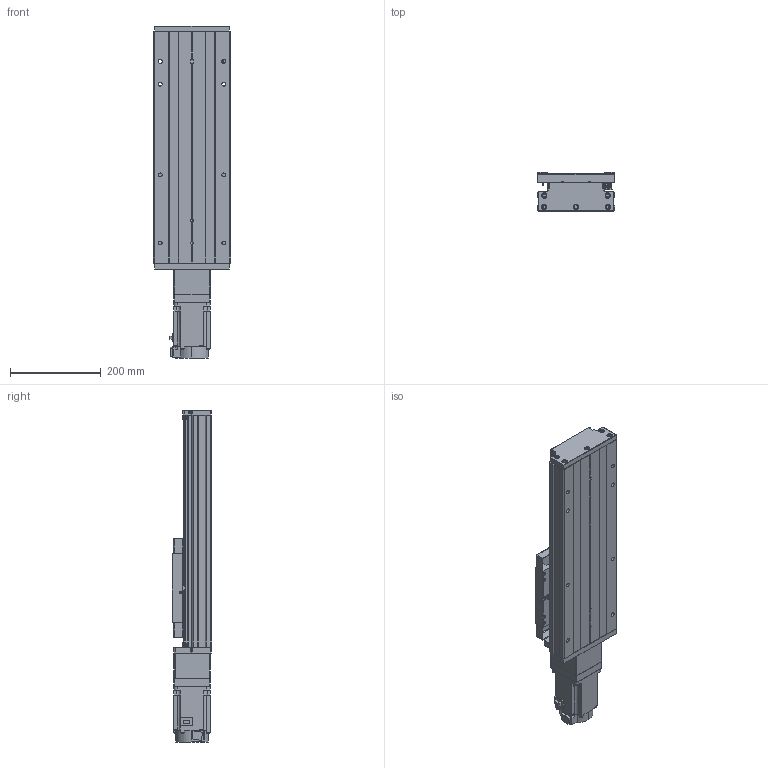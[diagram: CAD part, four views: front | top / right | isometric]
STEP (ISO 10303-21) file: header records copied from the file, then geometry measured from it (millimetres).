
FILE_DESCRIPTION (( 'STEP AP203' ), '1' );
FILE_NAME ('GTH17-250-BC-M75-C4.step', '2023-06-30T11:21:01', ( '微软用户' ), ( '微软中国' ), 'SwSTEP 2.0', 'SolidWorks 2020', '' );
FILE_SCHEMA (( 'CONFIG_CONTROL_DESIGN' ));
Length unit declared in the file: millimetre
Products named in the file (20): CTHA60-017; GBT 70.2-M3¡Á5_M3¡Á6; GTH17-250-BC-M75-C4; EE_SX911P_R; す晦芛蹟隊 M3℅5; GTH17-001_250; CTHA60-016; GBT 70.3-M3℅8; GTH17-002_GTH17-002; GBT 70.1-M3℅5; GTH17-006-2_M75; GTH17-004; GBT77-2000 M3×3; GTH17-013; GTH17-005; GBT 70.1-M6¡Á20_M6¡Á20; GTH17-027-1; GB1155-6X6; GTH17-031; HG-KN73J-S100
Assembly tree (57 placements, depth 2):
  GTH17-250-BC-M75-C4
    GTH17-001_250
    GTH17-002_GTH17-002
    GTH17-004
    GTH17-005
    GB1155-6X6  x2
    CTHA60-017  x3
    EE_SX911P_R  x3
    CTHA60-016  x2
    GBT 70.1-M3℅5  x6
    GBT77-2000 M3×3  x6
    GBT 70.1-M6¡Á20_M6¡Á20  x10
    GTH17-031
    GBT 70.2-M3¡Á5_M3¡Á6  x8
    す晦芛蹟隊 M3℅5  x6
    GBT 70.3-M3℅8  x2
    GTH17-006-2_M75
    GTH17-013
    GTH17-027-1
    HG-KN73J-S100
Bounding box: 171 x 87 x 731.2 mm (x, y, z)
Volume: 5590222.9 mm3; surface area: 795279 mm2
Topology: 60 solids, 60 shells, 2394 faces, 5725 edges, 3547 vertices
Faces by surface type: plane 1301, cylinder 646, cone 287, torus 120, sphere 20, bspline 20
Entity records: 44529 total; most frequent: CARTESIAN_POINT 10327, DIRECTION 6417, ORIENTED_EDGE 6366, EDGE_CURVE 3183, AXIS2_PLACEMENT_3D 2171, VECTOR 2075, LINE 2075, VERTEX_POINT 2015
